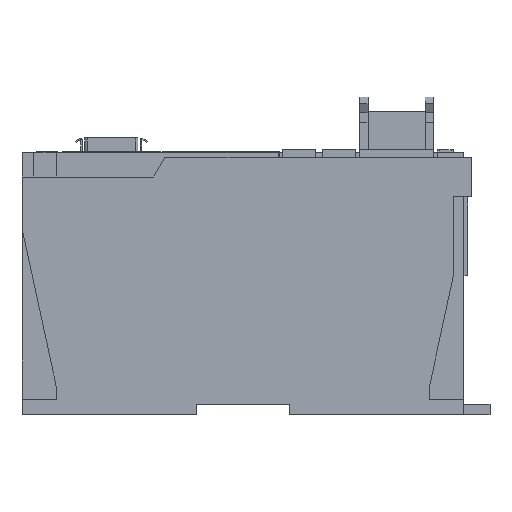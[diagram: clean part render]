
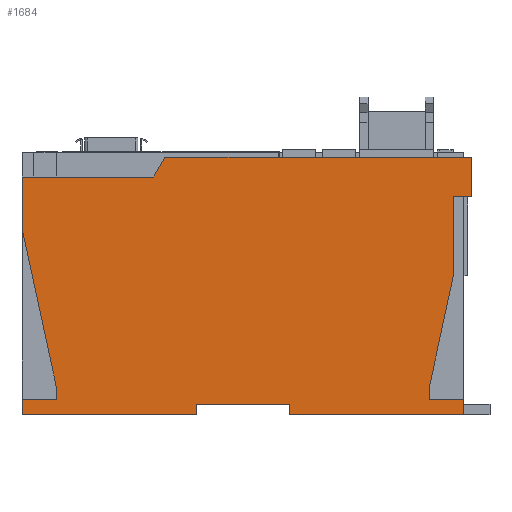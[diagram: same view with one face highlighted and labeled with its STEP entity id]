
A CAD part, left-side view. The second image highlights one B-rep face of the part: STEP entity #1684.
In plain terms, the highlighted planar face has unit normal (-1, 0, 0).
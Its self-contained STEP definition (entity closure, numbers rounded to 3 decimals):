
#13=DIRECTION('',(0.,-1.,0.));
#14=VECTOR('',#13,66.25);
#15=CARTESIAN_POINT('',(-15.,84.,0.));
#16=LINE('',#15,#14);
#65=DIRECTION('',(0.,-1.,0.));
#66=VECTOR('',#65,66.25);
#67=CARTESIAN_POINT('',(-15.,-17.75,0.));
#68=LINE('',#67,#66);
#73=DIRECTION('',(0.,0.,-1.));
#74=VECTOR('',#73,30.462);
#75=CARTESIAN_POINT('',(-15.,-80.,83.));
#76=LINE('',#75,#74);
#77=DIRECTION('',(0.,0.212,-0.977));
#78=VECTOR('',#77,42.502);
#79=CARTESIAN_POINT('',(-15.,-80.,52.538));
#80=LINE('',#79,#78);
#81=DIRECTION('',(0.,0.,-1.));
#82=VECTOR('',#81,5.);
#83=CARTESIAN_POINT('',(-15.,-71.,11.));
#84=LINE('',#83,#82);
#85=DIRECTION('',(0.,1.,0.));
#86=VECTOR('',#85,13.);
#87=CARTESIAN_POINT('',(-15.,-84.,6.));
#88=LINE('',#87,#86);
#89=DIRECTION('',(0.,0.,1.));
#90=VECTOR('',#89,4.);
#91=CARTESIAN_POINT('',(-15.,-17.75,0.));
#92=LINE('',#91,#90);
#93=DIRECTION('',(0.,1.,0.));
#94=VECTOR('',#93,35.5);
#95=CARTESIAN_POINT('',(-15.,-17.75,4.));
#96=LINE('',#95,#94);
#97=DIRECTION('',(0.,0.,1.));
#98=VECTOR('',#97,4.);
#99=CARTESIAN_POINT('',(-15.,17.75,0.));
#100=LINE('',#99,#98);
#101=DIRECTION('',(0.,0.,1.));
#102=VECTOR('',#101,6.);
#103=CARTESIAN_POINT('',(-15.,84.,0.));
#104=LINE('',#103,#102);
#105=DIRECTION('',(0.,-1.,0.));
#106=VECTOR('',#105,13.);
#107=CARTESIAN_POINT('',(-15.,84.,6.));
#108=LINE('',#107,#106);
#109=DIRECTION('',(0.,0.,1.));
#110=VECTOR('',#109,5.);
#111=CARTESIAN_POINT('',(-15.,71.,6.));
#112=LINE('',#111,#110);
#113=DIRECTION('',(0.,0.212,0.977));
#114=VECTOR('',#113,61.392);
#115=CARTESIAN_POINT('',(-15.,71.,11.));
#116=LINE('',#115,#114);
#117=DIRECTION('',(0.,0.,1.));
#118=VECTOR('',#117,19.5);
#119=CARTESIAN_POINT('',(-15.,84.,71.));
#120=LINE('',#119,#118);
#121=DIRECTION('',(0.,-1.,0.));
#122=VECTOR('',#121,50.);
#123=CARTESIAN_POINT('',(-15.,84.,90.5));
#124=LINE('',#123,#122);
#125=DIRECTION('',(0.,-0.5,0.866));
#126=VECTOR('',#125,8.66);
#127=CARTESIAN_POINT('',(-15.,34.,90.5));
#128=LINE('',#127,#126);
#129=DIRECTION('',(0.,-1.,0.));
#130=VECTOR('',#129,7.);
#131=CARTESIAN_POINT('',(-15.,-80.,83.));
#132=LINE('',#131,#130);
#181=DIRECTION('',(0.,0.,-1.));
#182=VECTOR('',#181,15.);
#183=CARTESIAN_POINT('',(-15.,-87.,98.));
#184=LINE('',#183,#182);
#249=DIRECTION('',(0.,1.,0.));
#250=VECTOR('',#249,116.67);
#251=CARTESIAN_POINT('',(-15.,-87.,98.));
#252=LINE('',#251,#250);
#285=DIRECTION('',(0.,0.,1.));
#286=VECTOR('',#285,6.);
#287=CARTESIAN_POINT('',(-15.,-84.,0.));
#288=LINE('',#287,#286);
#1182=CARTESIAN_POINT('',(-15.,84.,0.));
#1184=VERTEX_POINT('',#1182);
#1197=CARTESIAN_POINT('',(-15.,84.,90.5));
#1199=VERTEX_POINT('',#1197);
#1205=CARTESIAN_POINT('',(-15.,84.,6.));
#1206=CARTESIAN_POINT('',(-15.,71.,6.));
#1207=VERTEX_POINT('',#1205);
#1208=VERTEX_POINT('',#1206);
#1209=CARTESIAN_POINT('',(-15.,71.,11.));
#1210=VERTEX_POINT('',#1209);
#1211=CARTESIAN_POINT('',(-15.,84.,71.));
#1212=VERTEX_POINT('',#1211);
#1221=CARTESIAN_POINT('',(-15.,-71.,11.));
#1222=CARTESIAN_POINT('',(-15.,-71.,6.));
#1223=VERTEX_POINT('',#1221);
#1224=VERTEX_POINT('',#1222);
#1225=CARTESIAN_POINT('',(-15.,-84.,6.));
#1226=VERTEX_POINT('',#1225);
#1385=CARTESIAN_POINT('',(-15.,-17.75,0.));
#1387=VERTEX_POINT('',#1385);
#1389=CARTESIAN_POINT('',(-15.,17.75,0.));
#1391=VERTEX_POINT('',#1389);
#1393=CARTESIAN_POINT('',(-15.,-17.75,4.));
#1394=VERTEX_POINT('',#1393);
#1395=CARTESIAN_POINT('',(-15.,17.75,4.));
#1396=VERTEX_POINT('',#1395);
#1401=CARTESIAN_POINT('',(-15.,-84.,0.));
#1402=VERTEX_POINT('',#1401);
#1409=CARTESIAN_POINT('',(-15.,34.,90.5));
#1410=CARTESIAN_POINT('',(-15.,29.67,98.));
#1411=VERTEX_POINT('',#1409);
#1412=VERTEX_POINT('',#1410);
#1418=CARTESIAN_POINT('',(-15.,-80.,52.538));
#1420=VERTEX_POINT('',#1418);
#1467=CARTESIAN_POINT('',(-15.,-87.,98.));
#1468=CARTESIAN_POINT('',(-15.,-87.,83.));
#1469=VERTEX_POINT('',#1467);
#1470=VERTEX_POINT('',#1468);
#1511=CARTESIAN_POINT('',(-15.,-80.,83.));
#1513=VERTEX_POINT('',#1511);
#1640=CARTESIAN_POINT('',(-15.,84.,0.));
#1641=DIRECTION('',(-1.,0.,0.));
#1642=DIRECTION('',(0.,-1.,0.));
#1643=AXIS2_PLACEMENT_3D('',#1640,#1641,#1642);
#1644=PLANE('',#1643);
#1646=ORIENTED_EDGE('',*,*,#1645,.F.);
#1648=ORIENTED_EDGE('',*,*,#1647,.T.);
#1650=ORIENTED_EDGE('',*,*,#1649,.T.);
#1652=ORIENTED_EDGE('',*,*,#1651,.T.);
#1654=ORIENTED_EDGE('',*,*,#1653,.F.);
#1656=ORIENTED_EDGE('',*,*,#1655,.F.);
#1657=ORIENTED_EDGE('',*,*,#1614,.F.);
#1659=ORIENTED_EDGE('',*,*,#1658,.T.);
#1661=ORIENTED_EDGE('',*,*,#1660,.T.);
#1662=ORIENTED_EDGE('',*,*,#1631,.F.);
#1663=ORIENTED_EDGE('',*,*,#1584,.F.);
#1665=ORIENTED_EDGE('',*,*,#1664,.T.);
#1667=ORIENTED_EDGE('',*,*,#1666,.T.);
#1669=ORIENTED_EDGE('',*,*,#1668,.T.);
#1671=ORIENTED_EDGE('',*,*,#1670,.T.);
#1673=ORIENTED_EDGE('',*,*,#1672,.T.);
#1675=ORIENTED_EDGE('',*,*,#1674,.T.);
#1677=ORIENTED_EDGE('',*,*,#1676,.T.);
#1679=ORIENTED_EDGE('',*,*,#1678,.F.);
#1681=ORIENTED_EDGE('',*,*,#1680,.T.);
#1682=EDGE_LOOP('',(#1646,#1648,#1650,#1652,#1654,#1656,#1657,#1659,#1661,#1662,
#1663,#1665,#1667,#1669,#1671,#1673,#1675,#1677,#1679,#1681));
#1683=FACE_OUTER_BOUND('',#1682,.F.);
#1684=ADVANCED_FACE('',(#1683),#1644,.T.);
#1584=EDGE_CURVE('',#1184,#1391,#16,.T.);
#1614=EDGE_CURVE('',#1387,#1402,#68,.T.);
#1631=EDGE_CURVE('',#1391,#1396,#100,.T.);
#1645=EDGE_CURVE('',#1513,#1470,#132,.T.);
#1647=EDGE_CURVE('',#1513,#1420,#76,.T.);
#1649=EDGE_CURVE('',#1420,#1223,#80,.T.);
#1651=EDGE_CURVE('',#1223,#1224,#84,.T.);
#1653=EDGE_CURVE('',#1226,#1224,#88,.T.);
#1655=EDGE_CURVE('',#1402,#1226,#288,.T.);
#1658=EDGE_CURVE('',#1387,#1394,#92,.T.);
#1660=EDGE_CURVE('',#1394,#1396,#96,.T.);
#1664=EDGE_CURVE('',#1184,#1207,#104,.T.);
#1666=EDGE_CURVE('',#1207,#1208,#108,.T.);
#1668=EDGE_CURVE('',#1208,#1210,#112,.T.);
#1670=EDGE_CURVE('',#1210,#1212,#116,.T.);
#1672=EDGE_CURVE('',#1212,#1199,#120,.T.);
#1674=EDGE_CURVE('',#1199,#1411,#124,.T.);
#1676=EDGE_CURVE('',#1411,#1412,#128,.T.);
#1678=EDGE_CURVE('',#1469,#1412,#252,.T.);
#1680=EDGE_CURVE('',#1469,#1470,#184,.T.);
